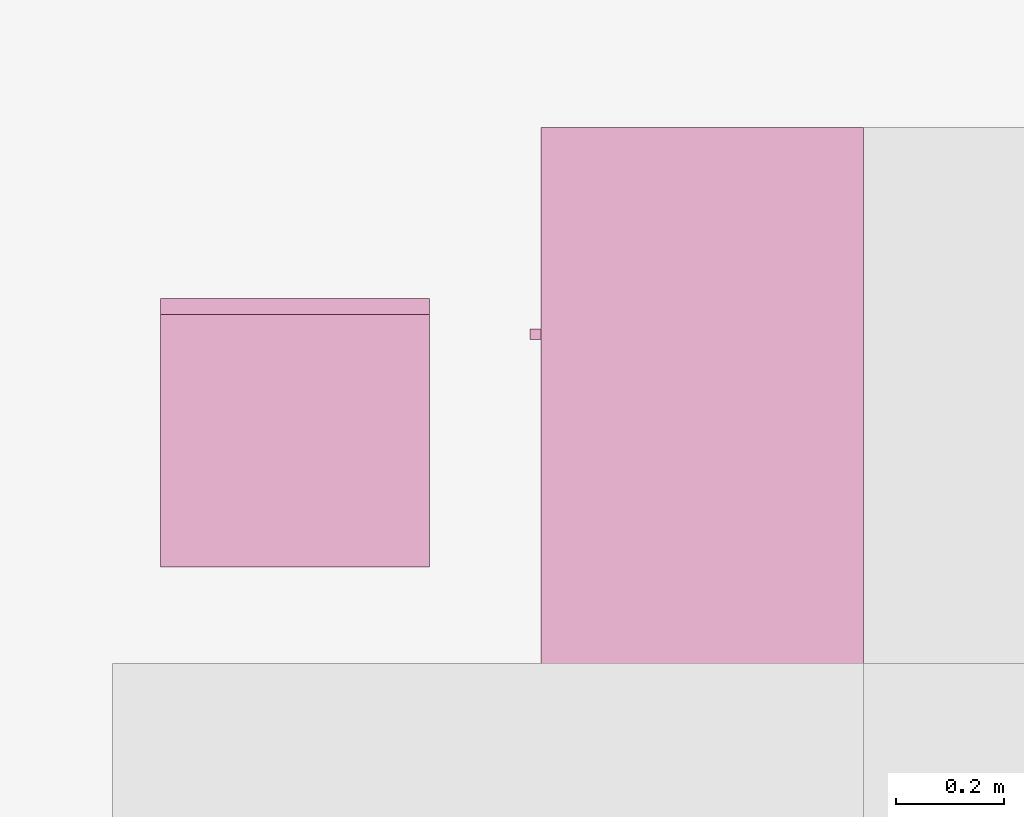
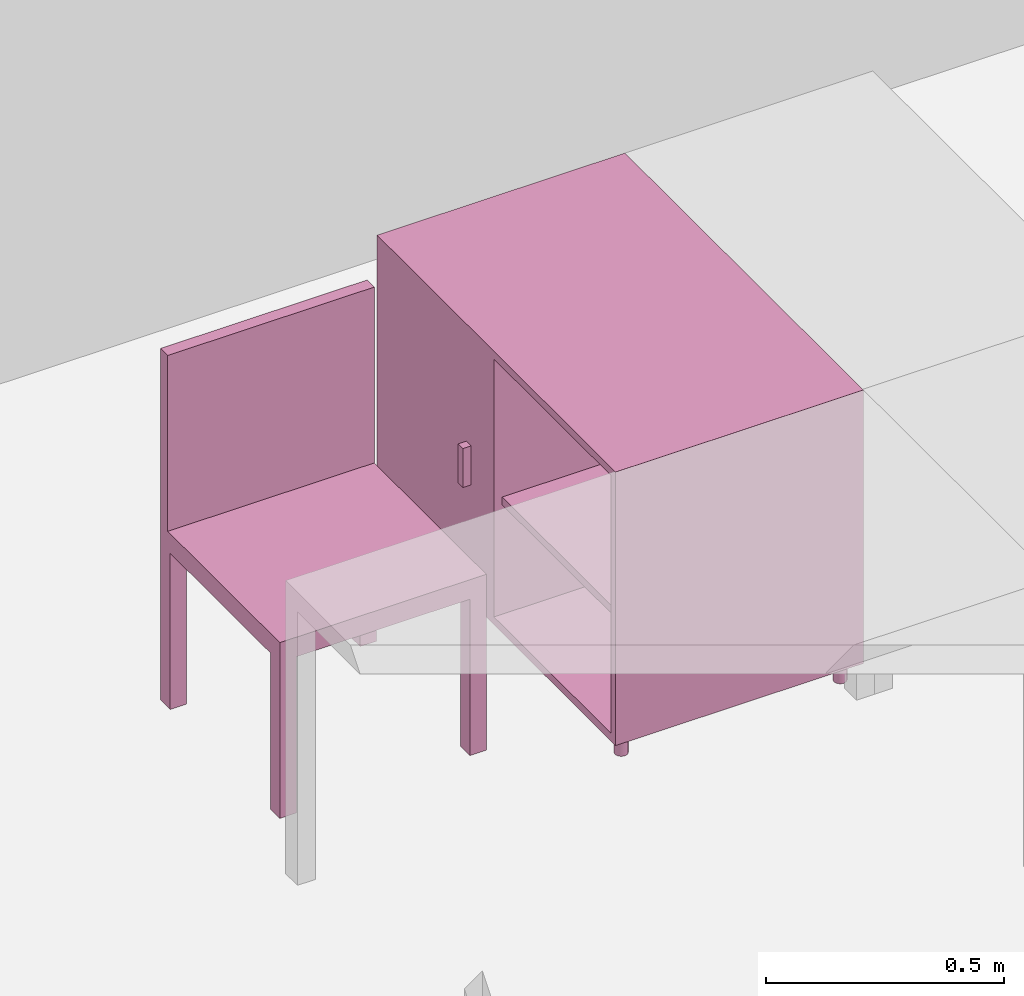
"""IFC4 building model written with IfcOpenShell, lengths in metres."""

from ifc_helpers import new_model, entity, si_unit, converted_unit, derived_unit, frame, origin, place, context, subcontext, project, spatial, faceted_brep, element, save


model = new_model("IFC4")

# Units and contexts
model_context = context("Model", 3, precision=1e-05, world=origin())
body_context = subcontext(model_context, "Body", "Model", "MODEL_VIEW")
ifc_project = project(units=[si_unit("LENGTHUNIT", "METRE"), si_unit("AREAUNIT", "SQUARE_METRE"), si_unit("VOLUMEUNIT", "CUBIC_METRE"), si_unit("MASSUNIT", "GRAM", prefix="KILO"), converted_unit("PLANEANGLEUNIT", "DEGREE", entity("IfcPlaneAngleMeasure", 0.0174532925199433), si_unit("PLANEANGLEUNIT", "RADIAN"), dimensions=[0, 0, 0, 0, 0, 0, 0]), derived_unit("THERMALTRANSMITTANCEUNIT", [(si_unit("POWERUNIT", "WATT"), 1), (si_unit("THERMODYNAMICTEMPERATUREUNIT", "KELVIN"), -1), (si_unit("LENGTHUNIT", "METRE"), -2)]), derived_unit("VOLUMETRICFLOWRATEUNIT", [(si_unit("LENGTHUNIT", "METRE"), 3), (converted_unit("TIMEUNIT", "hour", entity("IfcTimeMeasure", 3600.0), si_unit("TIMEUNIT", "SECOND"), dimensions=[0, 0, 1, 0, 0, 0, 0]), -1), (si_unit("LENGTHUNIT", "METRE"), -1)])], contexts=[model_context])

# Building, storeys
building_placement = place(None, origin())
building = spatial("IfcBuilding", under=ifc_project, at=building_placement, Name="HABITATGE PLURIFAMILIAR", CompositionType="ELEMENT")
storey_1_placement = place(building_placement, frame((0.0, 0.0, 6.25)))
storey_1 = spatial("IfcBuildingStorey", under=building, at=storey_1_placement, Name="PLANTA PRIMERA", CompositionType="ELEMENT", Elevation=6.25)
storey_2_placement = place(storey_1_placement, frame((0.0, 0.0, 3.35)))
storey_2 = spatial("IfcBuildingStorey", under=storey_1, at=storey_2_placement, Name="NOU", CompositionType="PARTIAL")

# Furniture
furniture_1_placement = place(storey_2_placement, frame((423.133213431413, 26.2261658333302, -3.35)))
element("IfcFurniture", 1, at=furniture_1_placement, inside=storey_2, Name="Taula 100X60_P1", context=body_context, shape_type="Brep", body=[
    faceted_brep([(0.620000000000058, 0.0, 0.05), (0.02, 0.0, 0.05), (0.02, 0.0, 0.07), (0.620000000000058, 0.0, 0.07), (0.02, 1.00000000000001, 0.05), (0.02, 1.00000000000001, 0.07), (0.620000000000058, 1.0, 0.05), (0.620000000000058, 1.0, 0.07)], [[[0, 1, 2, 3]], [[1, 4, 5, 2]], [[4, 6, 7, 5]], [[6, 0, 3, 7]], [[0, 6, 4, 1]], [[3, 2, 5, 7]]], orient=[[False], [False], [False], [False], [False], [False]]),
    faceted_brep([(0.04, 0.0, 0.35), (0.62, 0.0, 0.35), (0.62, 0.999999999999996, 0.35), (0.04, 1.0, 0.35), (0.62, 0.0, 0.37), (0.04, 0.0, 0.37), (0.04, 1.0, 0.37), (0.62, 0.999999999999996, 0.37)], [[[0, 1, 2, 3]], [[4, 5, 6, 7]], [[1, 0, 5, 4]], [[2, 1, 4, 7]], [[3, 2, 7, 6]], [[0, 3, 6, 5]]], orient=[[False], [False], [False], [False], [False], [False]]),
    faceted_brep([(0.04, 0.510000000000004, 0.75), (0.04, 0.510000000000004, 0.05), (0.02, 0.510000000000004, 0.05), (0.02, 0.510000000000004, 0.75), (0.04, 1.00000000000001, 0.05), (0.02, 1.00000000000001, 0.05), (0.04, 1.00000000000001, 0.75), (0.02, 1.00000000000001, 0.75)], [[[0, 1, 2, 3]], [[1, 4, 5, 2]], [[4, 6, 7, 5]], [[6, 0, 3, 7]], [[0, 6, 4, 1]], [[3, 2, 5, 7]]], orient=[[False], [False], [False], [False], [False], [False]]),
    faceted_brep([(0.62, 0.0200000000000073, 0.75), (0.620000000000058, 0.0200000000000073, 0.0499999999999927), (0.620000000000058, 0.0, 0.0499999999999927), (0.62, 0.0, 0.75), (0.02, 0.02, 0.05), (0.02, 0.0, 0.05), (0.02, 0.02, 0.75), (0.02, 0.0, 0.75)], [[[0, 1, 2, 3]], [[1, 4, 5, 2]], [[4, 6, 7, 5]], [[6, 0, 3, 7]], [[0, 6, 4, 1]], [[3, 2, 5, 7]]], orient=[[False], [False], [False], [False], [False], [False]]),
    faceted_brep([(0.62, 0.530000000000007, 0.75), (0.620000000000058, 0.530000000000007, 0.0499999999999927), (0.620000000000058, 0.510000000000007, 0.0499999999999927), (0.62, 0.510000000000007, 0.75), (0.02, 0.53, 0.05), (0.02, 0.51, 0.05), (0.02, 0.53, 0.75), (0.02, 0.51, 0.75)], [[[0, 1, 2, 3]], [[1, 4, 5, 2]], [[4, 6, 7, 5]], [[6, 0, 3, 7]], [[0, 6, 4, 1]], [[3, 2, 5, 7]]], orient=[[False], [False], [False], [False], [False], [False]]),
    faceted_brep([(0.620000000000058, 0.530000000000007, 0.75000000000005), (0.620000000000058, 0.530000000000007, 0.0499999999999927), (0.620000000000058, 0.51, 0.0499999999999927), (0.620000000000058, 0.51, 0.75000000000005), (0.0400000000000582, 0.530000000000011, 0.0499999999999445), (0.0400000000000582, 0.510000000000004, 0.0499999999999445), (0.04, 0.530000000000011, 0.750000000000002), (0.04, 0.510000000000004, 0.750000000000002)], [[[0, 1, 2, 3]], [[1, 4, 5, 2]], [[4, 6, 7, 5]], [[6, 0, 3, 7]], [[0, 6, 4, 1]], [[3, 2, 5, 7]]], orient=[[False], [False], [False], [False], [False], [False]]),
    faceted_brep([(0.62, 1.0, 0.75), (0.620000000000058, 1.0, 0.0499999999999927), (0.620000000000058, 0.980000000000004, 0.0499999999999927), (0.62, 0.980000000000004, 0.75), (0.02, 1.0, 0.05), (0.02, 0.98, 0.05), (0.02, 1.0, 0.75), (0.02, 0.98, 0.75)], [[[0, 1, 2, 3]], [[1, 4, 5, 2]], [[4, 6, 7, 5]], [[6, 0, 3, 7]], [[0, 6, 4, 1]], [[3, 2, 5, 7]]], orient=[[False], [False], [False], [False], [False], [False]]),
    faceted_brep([(0.620000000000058, 0.0, 0.73), (0.02, 0.0, 0.73), (0.02, 0.0, 0.75), (0.620000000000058, 0.0, 0.75), (0.02, 1.00000000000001, 0.73), (0.02, 1.00000000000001, 0.75), (0.620000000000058, 1.0, 0.73), (0.620000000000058, 1.0, 0.75)], [[[0, 1, 2, 3]], [[1, 4, 5, 2]], [[4, 6, 7, 5]], [[6, 0, 3, 7]], [[0, 6, 4, 1]], [[3, 2, 5, 7]]], orient=[[False], [False], [False], [False], [False], [False]]),
    faceted_brep([(0.62, 0.02, 0.75), (0.62, 0.02, 0.05), (0.6, 0.02, 0.05), (0.6, 0.02, 0.75), (0.62, 1.00000000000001, 0.05), (0.6, 1.00000000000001, 0.05), (0.62, 1.00000000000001, 0.75), (0.6, 1.00000000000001, 0.75)], [[[0, 1, 2, 3]], [[1, 4, 5, 2]], [[4, 6, 7, 5]], [[6, 0, 3, 7]], [[0, 6, 4, 1]], [[3, 2, 5, 7]]], orient=[[False], [False], [False], [False], [False], [False]]),
    faceted_brep([(0.02, 0.625579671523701, 0.35), (0.0, 0.625579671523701, 0.35), (0.0, 0.605579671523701, 0.35), (0.02, 0.605579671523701, 0.35), (0.02, 0.605579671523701, 0.45), (0.0, 0.605579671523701, 0.45), (0.0, 0.625579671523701, 0.45), (0.02, 0.625579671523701, 0.45)], [[[0, 1, 2, 3]], [[4, 5, 6, 7]], [[3, 4, 7, 0]], [[2, 5, 4, 3]], [[1, 6, 5, 2]], [[0, 7, 6, 1]]], orient=[[False], [False], [False], [False], [False], [False]]),
    faceted_brep([(0.583821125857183, 0.0499366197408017, 0.0), (0.581227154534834, 0.049709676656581, 0.0), (0.578711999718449, 0.0490357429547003, 0.0), (0.5763520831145, 0.047935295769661, 0.0), (0.574219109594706, 0.0464417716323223, 0.0), (0.57237788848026, 0.0446005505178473, 0.0), (0.570884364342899, 0.0424675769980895, 0.0), (0.569783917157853, 0.0401076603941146, 0.0), (0.569109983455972, 0.0375925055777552, 0.0), (0.568883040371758, 0.0349985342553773, 0.0), (0.569109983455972, 0.032404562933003, 0.0), (0.569783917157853, 0.0298894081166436, 0.0), (0.570884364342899, 0.0275294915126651, 0.0), (0.57237788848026, 0.025396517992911, 0.0), (0.574219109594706, 0.0235552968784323, 0.0), (0.5763520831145, 0.0220617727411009, 0.0), (0.578711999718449, 0.020961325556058, 0.0), (0.581227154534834, 0.0202873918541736, 0.0), (0.583821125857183, 0.0200604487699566, 0.0), (0.586415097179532, 0.0202873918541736, 0.0), (0.588930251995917, 0.020961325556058, 0.0), (0.591290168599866, 0.0220617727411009, 0.0), (0.59342314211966, 0.0235552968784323, 0.0), (0.595264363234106, 0.025396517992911, 0.0), (0.596757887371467, 0.0275294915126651, 0.0), (0.597858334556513, 0.0298894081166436, 0.0), (0.598532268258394, 0.032404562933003, 0.0), (0.598759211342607, 0.0349985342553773, 0.0), (0.598532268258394, 0.0375925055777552, 0.0), (0.597858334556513, 0.0401076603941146, 0.0), (0.596757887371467, 0.0424675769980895, 0.0), (0.595264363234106, 0.0446005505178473, 0.0), (0.59342314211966, 0.0464417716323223, 0.0), (0.591290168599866, 0.047935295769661, 0.0), (0.588930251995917, 0.0490357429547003, 0.0), (0.586415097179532, 0.049709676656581, 0.0), (0.583821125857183, 0.0499366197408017, 0.05), (0.586415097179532, 0.049709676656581, 0.05), (0.588930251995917, 0.0490357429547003, 0.05), (0.591290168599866, 0.047935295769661, 0.05), (0.59342314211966, 0.0464417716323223, 0.05), (0.595264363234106, 0.0446005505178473, 0.05), (0.596757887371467, 0.0424675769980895, 0.05), (0.597858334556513, 0.0401076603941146, 0.05), (0.598532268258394, 0.0375925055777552, 0.05), (0.598759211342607, 0.0349985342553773, 0.05), (0.598532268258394, 0.032404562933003, 0.05), (0.597858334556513, 0.0298894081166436, 0.05), (0.596757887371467, 0.0275294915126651, 0.05), (0.595264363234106, 0.025396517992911, 0.05), (0.59342314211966, 0.0235552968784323, 0.05), (0.591290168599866, 0.0220617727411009, 0.05), (0.588930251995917, 0.020961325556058, 0.05), (0.586415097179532, 0.0202873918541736, 0.05), (0.583821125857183, 0.0200604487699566, 0.05), (0.581227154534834, 0.0202873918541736, 0.05), (0.578711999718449, 0.020961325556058, 0.05), (0.5763520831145, 0.0220617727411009, 0.05), (0.574219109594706, 0.0235552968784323, 0.05), (0.57237788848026, 0.025396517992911, 0.05), (0.570884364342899, 0.0275294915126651, 0.05), (0.569783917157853, 0.0298894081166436, 0.05), (0.569109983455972, 0.032404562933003, 0.05), (0.568883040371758, 0.0349985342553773, 0.05), (0.569109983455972, 0.0375925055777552, 0.05), (0.569783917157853, 0.0401076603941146, 0.05), (0.570884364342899, 0.0424675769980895, 0.05), (0.57237788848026, 0.0446005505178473, 0.05), (0.574219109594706, 0.0464417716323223, 0.05), (0.5763520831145, 0.047935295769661, 0.05), (0.578711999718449, 0.0490357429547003, 0.05), (0.581227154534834, 0.049709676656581, 0.05)], [[[0, 1, 2, 3, 4, 5, 6, 7, 8, 9, 10, 11, 12, 13, 14, 15, 16, 17, 18, 19, 20, 21, 22, 23, 24, 25, 26, 27, 28, 29, 30, 31, 32, 33, 34, 35]], [[36, 37, 38, 39, 40, 41, 42, 43, 44, 45, 46, 47, 48, 49, 50, 51, 52, 53, 54, 55, 56, 57, 58, 59, 60, 61, 62, 63, 64, 65, 66, 67, 68, 69, 70, 71]], [[1, 0, 36, 71]], [[2, 1, 71, 70]], [[3, 2, 70, 69]], [[4, 3, 69, 68]], [[5, 4, 68, 67]], [[6, 5, 67, 66]], [[7, 6, 66, 65]], [[8, 7, 65, 64]], [[9, 8, 64, 63]], [[10, 9, 63, 62]], [[11, 10, 62, 61]], [[12, 11, 61, 60]], [[13, 12, 60, 59]], [[14, 13, 59, 58]], [[15, 14, 58, 57]], [[16, 15, 57, 56]], [[17, 16, 56, 55]], [[18, 17, 55, 54]], [[19, 18, 54, 53]], [[20, 19, 53, 52]], [[21, 20, 52, 51]], [[22, 21, 51, 50]], [[23, 22, 50, 49]], [[24, 23, 49, 48]], [[25, 24, 48, 47]], [[26, 25, 47, 46]], [[27, 26, 46, 45]], [[28, 27, 45, 44]], [[29, 28, 44, 43]], [[30, 29, 43, 42]], [[31, 30, 42, 41]], [[32, 31, 41, 40]], [[33, 32, 40, 39]], [[34, 33, 39, 38]], [[35, 34, 38, 37]], [[0, 35, 37, 36]]], orient=[[False], [False], [False], [False], [False], [False], [False], [False], [False], [False], [False], [False], [False], [False], [False], [False], [False], [False], [False], [False], [False], [False], [False], [False], [False], [False], [False], [False], [False], [False], [False], [False], [False], [False], [False], [False], [False], [False]]),
    faceted_brep([(0.0538211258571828, 0.0499366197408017, 0.0), (0.051227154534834, 0.049709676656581, 0.0), (0.0487119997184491, 0.0490357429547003, 0.0), (0.0463520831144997, 0.0479352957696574, 0.0), (0.0442191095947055, 0.0464417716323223, 0.0), (0.0423778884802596, 0.0446005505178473, 0.0), (0.0408843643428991, 0.0424675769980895, 0.0), (0.0397839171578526, 0.040107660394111, 0.0), (0.0391099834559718, 0.0375925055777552, 0.0), (0.0388830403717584, 0.0349985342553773, 0.0), (0.0391099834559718, 0.0324045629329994, 0.0), (0.0397839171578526, 0.0298894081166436, 0.0), (0.0408843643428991, 0.0275294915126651, 0.0), (0.0423778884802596, 0.0253965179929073, 0.0), (0.0442191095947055, 0.0235552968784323, 0.0), (0.0463520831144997, 0.0220617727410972, 0.0), (0.0487119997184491, 0.0209613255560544, 0.0), (0.051227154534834, 0.0202873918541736, 0.0), (0.0538211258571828, 0.0200604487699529, 0.0), (0.0564150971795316, 0.0202873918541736, 0.0), (0.0589302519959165, 0.0209613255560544, 0.0), (0.0612901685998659, 0.0220617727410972, 0.0), (0.06342314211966, 0.0235552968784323, 0.0), (0.065264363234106, 0.0253965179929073, 0.0), (0.0667578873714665, 0.0275294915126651, 0.0), (0.067858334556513, 0.0298894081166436, 0.0), (0.0685322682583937, 0.0324045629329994, 0.0), (0.0687592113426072, 0.0349985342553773, 0.0), (0.0685322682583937, 0.0375925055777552, 0.0), (0.067858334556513, 0.040107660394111, 0.0), (0.0667578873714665, 0.0424675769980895, 0.0), (0.065264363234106, 0.0446005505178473, 0.0), (0.06342314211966, 0.0464417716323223, 0.0), (0.0612901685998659, 0.0479352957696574, 0.0), (0.0589302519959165, 0.0490357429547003, 0.0), (0.0564150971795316, 0.049709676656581, 0.0), (0.0538211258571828, 0.0499366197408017, 0.05), (0.0564150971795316, 0.049709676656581, 0.05), (0.0589302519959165, 0.0490357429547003, 0.05), (0.0612901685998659, 0.0479352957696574, 0.05), (0.06342314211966, 0.0464417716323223, 0.05), (0.065264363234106, 0.0446005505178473, 0.05), (0.0667578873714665, 0.0424675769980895, 0.05), (0.067858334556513, 0.040107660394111, 0.05), (0.0685322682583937, 0.0375925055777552, 0.05), (0.0687592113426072, 0.0349985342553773, 0.05), (0.0685322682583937, 0.0324045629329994, 0.05), (0.067858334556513, 0.0298894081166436, 0.05), (0.0667578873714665, 0.0275294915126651, 0.05), (0.065264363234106, 0.0253965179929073, 0.05), (0.06342314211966, 0.0235552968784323, 0.05), (0.0612901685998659, 0.0220617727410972, 0.05), (0.0589302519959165, 0.0209613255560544, 0.05), (0.0564150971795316, 0.0202873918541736, 0.05), (0.0538211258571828, 0.0200604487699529, 0.05), (0.051227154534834, 0.0202873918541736, 0.05), (0.0487119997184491, 0.0209613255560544, 0.05), (0.0463520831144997, 0.0220617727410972, 0.05), (0.0442191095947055, 0.0235552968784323, 0.05), (0.0423778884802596, 0.0253965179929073, 0.05), (0.0408843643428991, 0.0275294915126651, 0.05), (0.0397839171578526, 0.0298894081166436, 0.05), (0.0391099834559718, 0.0324045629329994, 0.05), (0.0388830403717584, 0.0349985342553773, 0.05), (0.0391099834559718, 0.0375925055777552, 0.05), (0.0397839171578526, 0.040107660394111, 0.05), (0.0408843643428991, 0.0424675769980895, 0.05), (0.0423778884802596, 0.0446005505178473, 0.05), (0.0442191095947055, 0.0464417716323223, 0.05), (0.0463520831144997, 0.0479352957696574, 0.05), (0.0487119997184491, 0.0490357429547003, 0.05), (0.051227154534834, 0.049709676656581, 0.05)], [[[0, 1, 2, 3, 4, 5, 6, 7, 8, 9, 10, 11, 12, 13, 14, 15, 16, 17, 18, 19, 20, 21, 22, 23, 24, 25, 26, 27, 28, 29, 30, 31, 32, 33, 34, 35]], [[36, 37, 38, 39, 40, 41, 42, 43, 44, 45, 46, 47, 48, 49, 50, 51, 52, 53, 54, 55, 56, 57, 58, 59, 60, 61, 62, 63, 64, 65, 66, 67, 68, 69, 70, 71]], [[1, 0, 36, 71]], [[2, 1, 71, 70]], [[3, 2, 70, 69]], [[4, 3, 69, 68]], [[5, 4, 68, 67]], [[6, 5, 67, 66]], [[7, 6, 66, 65]], [[8, 7, 65, 64]], [[9, 8, 64, 63]], [[10, 9, 63, 62]], [[11, 10, 62, 61]], [[12, 11, 61, 60]], [[13, 12, 60, 59]], [[14, 13, 59, 58]], [[15, 14, 58, 57]], [[16, 15, 57, 56]], [[17, 16, 56, 55]], [[18, 17, 55, 54]], [[19, 18, 54, 53]], [[20, 19, 53, 52]], [[21, 20, 52, 51]], [[22, 21, 51, 50]], [[23, 22, 50, 49]], [[24, 23, 49, 48]], [[25, 24, 48, 47]], [[26, 25, 47, 46]], [[27, 26, 46, 45]], [[28, 27, 45, 44]], [[29, 28, 44, 43]], [[30, 29, 43, 42]], [[31, 30, 42, 41]], [[32, 31, 41, 40]], [[33, 32, 40, 39]], [[34, 33, 39, 38]], [[35, 34, 38, 37]], [[0, 35, 37, 36]]], orient=[[False], [False], [False], [False], [False], [False], [False], [False], [False], [False], [False], [False], [False], [False], [False], [False], [False], [False], [False], [False], [False], [False], [False], [False], [False], [False], [False], [False], [False], [False], [False], [False], [False], [False], [False], [False], [False], [False]]),
    faceted_brep([(0.0550000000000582, 0.979982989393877, 0.0), (0.0524060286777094, 0.97975604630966, 0.0), (0.0498908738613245, 0.979082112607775, 0.0), (0.0475309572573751, 0.977981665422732, 0.0), (0.0453979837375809, 0.976488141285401, 0.0), (0.043556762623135, 0.974646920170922, 0.0), (0.0420632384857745, 0.972513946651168, 0.0), (0.040962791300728, 0.97015403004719, 0.0), (0.0402888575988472, 0.96763887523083, 0.0), (0.0400619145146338, 0.965044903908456, 0.0), (0.0402888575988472, 0.962450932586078, 0.0), (0.040962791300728, 0.959935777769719, 0.0), (0.0420632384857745, 0.957575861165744, 0.0), (0.043556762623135, 0.955442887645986, 0.0), (0.0453979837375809, 0.953601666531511, 0.0), (0.0475309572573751, 0.952108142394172, 0.0), (0.0498908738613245, 0.951007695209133, 0.0), (0.0524060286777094, 0.950333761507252, 0.0), (0.0550000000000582, 0.950106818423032, 0.0), (0.057593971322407, 0.950333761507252, 0.0), (0.0601091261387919, 0.951007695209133, 0.0), (0.0624690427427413, 0.952108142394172, 0.0), (0.0646020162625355, 0.953601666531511, 0.0), (0.0664432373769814, 0.955442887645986, 0.0), (0.0679367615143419, 0.957575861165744, 0.0), (0.0690372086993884, 0.959935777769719, 0.0), (0.0697111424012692, 0.962450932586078, 0.0), (0.0699380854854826, 0.965044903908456, 0.0), (0.0697111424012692, 0.96763887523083, 0.0), (0.0690372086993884, 0.97015403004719, 0.0), (0.0679367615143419, 0.972513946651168, 0.0), (0.0664432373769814, 0.974646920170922, 0.0), (0.0646020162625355, 0.976488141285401, 0.0), (0.0624690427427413, 0.977981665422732, 0.0), (0.0601091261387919, 0.979082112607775, 0.0), (0.057593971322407, 0.97975604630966, 0.0), (0.0550000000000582, 0.979982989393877, 0.05), (0.057593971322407, 0.97975604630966, 0.05), (0.0601091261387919, 0.979082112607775, 0.05), (0.0624690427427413, 0.977981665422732, 0.05), (0.0646020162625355, 0.976488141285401, 0.05), (0.0664432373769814, 0.974646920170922, 0.05), (0.0679367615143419, 0.972513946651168, 0.05), (0.0690372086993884, 0.97015403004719, 0.05), (0.0697111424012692, 0.96763887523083, 0.05), (0.0699380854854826, 0.965044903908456, 0.05), (0.0697111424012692, 0.962450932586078, 0.05), (0.0690372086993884, 0.959935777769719, 0.05), (0.0679367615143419, 0.957575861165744, 0.05), (0.0664432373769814, 0.955442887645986, 0.05), (0.0646020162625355, 0.953601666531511, 0.05), (0.0624690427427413, 0.952108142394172, 0.05), (0.0601091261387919, 0.951007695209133, 0.05), (0.057593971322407, 0.950333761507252, 0.05), (0.0550000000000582, 0.950106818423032, 0.05), (0.0524060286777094, 0.950333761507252, 0.05), (0.0498908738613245, 0.951007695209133, 0.05), (0.0475309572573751, 0.952108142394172, 0.05), (0.0453979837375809, 0.953601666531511, 0.05), (0.043556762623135, 0.955442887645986, 0.05), (0.0420632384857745, 0.957575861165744, 0.05), (0.040962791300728, 0.959935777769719, 0.05), (0.0402888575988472, 0.962450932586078, 0.05), (0.0400619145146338, 0.965044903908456, 0.05), (0.0402888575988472, 0.96763887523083, 0.05), (0.040962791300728, 0.97015403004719, 0.05), (0.0420632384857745, 0.972513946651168, 0.05), (0.043556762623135, 0.974646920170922, 0.05), (0.0453979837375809, 0.976488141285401, 0.05), (0.0475309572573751, 0.977981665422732, 0.05), (0.0498908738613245, 0.979082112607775, 0.05), (0.0524060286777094, 0.97975604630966, 0.05)], [[[0, 1, 2, 3, 4, 5, 6, 7, 8, 9, 10, 11, 12, 13, 14, 15, 16, 17, 18, 19, 20, 21, 22, 23, 24, 25, 26, 27, 28, 29, 30, 31, 32, 33, 34, 35]], [[36, 37, 38, 39, 40, 41, 42, 43, 44, 45, 46, 47, 48, 49, 50, 51, 52, 53, 54, 55, 56, 57, 58, 59, 60, 61, 62, 63, 64, 65, 66, 67, 68, 69, 70, 71]], [[1, 0, 36, 71]], [[2, 1, 71, 70]], [[3, 2, 70, 69]], [[4, 3, 69, 68]], [[5, 4, 68, 67]], [[6, 5, 67, 66]], [[7, 6, 66, 65]], [[8, 7, 65, 64]], [[9, 8, 64, 63]], [[10, 9, 63, 62]], [[11, 10, 62, 61]], [[12, 11, 61, 60]], [[13, 12, 60, 59]], [[14, 13, 59, 58]], [[15, 14, 58, 57]], [[16, 15, 57, 56]], [[17, 16, 56, 55]], [[18, 17, 55, 54]], [[19, 18, 54, 53]], [[20, 19, 53, 52]], [[21, 20, 52, 51]], [[22, 21, 51, 50]], [[23, 22, 50, 49]], [[24, 23, 49, 48]], [[25, 24, 48, 47]], [[26, 25, 47, 46]], [[27, 26, 46, 45]], [[28, 27, 45, 44]], [[29, 28, 44, 43]], [[30, 29, 43, 42]], [[31, 30, 42, 41]], [[32, 31, 41, 40]], [[33, 32, 40, 39]], [[34, 33, 39, 38]], [[35, 34, 38, 37]], [[0, 35, 37, 36]]], orient=[[False], [False], [False], [False], [False], [False], [False], [False], [False], [False], [False], [False], [False], [False], [False], [False], [False], [False], [False], [False], [False], [False], [False], [False], [False], [False], [False], [False], [False], [False], [False], [False], [False], [False], [False], [False], [False], [False]]),
    faceted_brep([(0.585033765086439, 0.979647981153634, 0.0), (0.58243979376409, 0.979421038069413, 0.0), (0.579924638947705, 0.978747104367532, 0.0), (0.577564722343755, 0.977646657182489, 0.0), (0.575431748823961, 0.976153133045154, 0.0), (0.573590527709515, 0.974311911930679, 0.0), (0.572097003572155, 0.972178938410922, 0.0), (0.570996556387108, 0.969819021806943, 0.0), (0.570322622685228, 0.967303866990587, 0.0), (0.570095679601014, 0.964709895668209, 0.0), (0.570322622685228, 0.962115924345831, 0.0), (0.570996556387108, 0.959600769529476, 0.0), (0.572097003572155, 0.957240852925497, 0.0), (0.573590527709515, 0.955107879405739, 0.0), (0.575431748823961, 0.953266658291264, 0.0), (0.577564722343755, 0.951773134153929, 0.0), (0.579924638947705, 0.950672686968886, 0.0), (0.58243979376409, 0.949998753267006, 0.0), (0.585033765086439, 0.949771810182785, 0.0), (0.587627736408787, 0.949998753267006, 0.0), (0.590142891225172, 0.950672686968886, 0.0), (0.592502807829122, 0.951773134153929, 0.0), (0.594635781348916, 0.953266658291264, 0.0), (0.596477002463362, 0.955107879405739, 0.0), (0.597970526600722, 0.957240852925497, 0.0), (0.599070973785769, 0.959600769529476, 0.0), (0.59974490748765, 0.962115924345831, 0.0), (0.599971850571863, 0.964709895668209, 0.0), (0.59974490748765, 0.967303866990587, 0.0), (0.599070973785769, 0.969819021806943, 0.0), (0.597970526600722, 0.972178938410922, 0.0), (0.596477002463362, 0.974311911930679, 0.0), (0.594635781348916, 0.976153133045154, 0.0), (0.592502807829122, 0.977646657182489, 0.0), (0.590142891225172, 0.978747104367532, 0.0), (0.587627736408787, 0.979421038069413, 0.0), (0.585033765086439, 0.979647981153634, 0.05), (0.587627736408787, 0.979421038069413, 0.05), (0.590142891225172, 0.978747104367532, 0.05), (0.592502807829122, 0.977646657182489, 0.05), (0.594635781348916, 0.976153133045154, 0.05), (0.596477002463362, 0.974311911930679, 0.05), (0.597970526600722, 0.972178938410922, 0.05), (0.599070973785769, 0.969819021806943, 0.05), (0.59974490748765, 0.967303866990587, 0.05), (0.599971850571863, 0.964709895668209, 0.05), (0.59974490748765, 0.962115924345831, 0.05), (0.599070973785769, 0.959600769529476, 0.05), (0.597970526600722, 0.957240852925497, 0.05), (0.596477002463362, 0.955107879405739, 0.05), (0.594635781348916, 0.953266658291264, 0.05), (0.592502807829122, 0.951773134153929, 0.05), (0.590142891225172, 0.950672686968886, 0.05), (0.587627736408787, 0.949998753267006, 0.05), (0.585033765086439, 0.949771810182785, 0.05), (0.58243979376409, 0.949998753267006, 0.05), (0.579924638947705, 0.950672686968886, 0.05), (0.577564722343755, 0.951773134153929, 0.05), (0.575431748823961, 0.953266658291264, 0.05), (0.573590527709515, 0.955107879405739, 0.05), (0.572097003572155, 0.957240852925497, 0.05), (0.570996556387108, 0.959600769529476, 0.05), (0.570322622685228, 0.962115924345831, 0.05), (0.570095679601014, 0.964709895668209, 0.05), (0.570322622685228, 0.967303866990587, 0.05), (0.570996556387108, 0.969819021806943, 0.05), (0.572097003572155, 0.972178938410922, 0.05), (0.573590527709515, 0.974311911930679, 0.05), (0.575431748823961, 0.976153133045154, 0.05), (0.577564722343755, 0.977646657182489, 0.05), (0.579924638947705, 0.978747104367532, 0.05), (0.58243979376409, 0.979421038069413, 0.05)], [[[0, 1, 2, 3, 4, 5, 6, 7, 8, 9, 10, 11, 12, 13, 14, 15, 16, 17, 18, 19, 20, 21, 22, 23, 24, 25, 26, 27, 28, 29, 30, 31, 32, 33, 34, 35]], [[36, 37, 38, 39, 40, 41, 42, 43, 44, 45, 46, 47, 48, 49, 50, 51, 52, 53, 54, 55, 56, 57, 58, 59, 60, 61, 62, 63, 64, 65, 66, 67, 68, 69, 70, 71]], [[1, 0, 36, 71]], [[2, 1, 71, 70]], [[3, 2, 70, 69]], [[4, 3, 69, 68]], [[5, 4, 68, 67]], [[6, 5, 67, 66]], [[7, 6, 66, 65]], [[8, 7, 65, 64]], [[9, 8, 64, 63]], [[10, 9, 63, 62]], [[11, 10, 62, 61]], [[12, 11, 61, 60]], [[13, 12, 60, 59]], [[14, 13, 59, 58]], [[15, 14, 58, 57]], [[16, 15, 57, 56]], [[17, 16, 56, 55]], [[18, 17, 55, 54]], [[19, 18, 54, 53]], [[20, 19, 53, 52]], [[21, 20, 52, 51]], [[22, 21, 51, 50]], [[23, 22, 50, 49]], [[24, 23, 49, 48]], [[25, 24, 48, 47]], [[26, 25, 47, 46]], [[27, 26, 46, 45]], [[28, 27, 45, 44]], [[29, 28, 44, 43]], [[30, 29, 43, 42]], [[31, 30, 42, 41]], [[32, 31, 41, 40]], [[33, 32, 40, 39]], [[34, 33, 39, 38]], [[35, 34, 38, 37]], [[0, 35, 37, 36]]], orient=[[False], [False], [False], [False], [False], [False], [False], [False], [False], [False], [False], [False], [False], [False], [False], [False], [False], [False], [False], [False], [False], [False], [False], [False], [False], [False], [False], [False], [False], [False], [False], [False], [False], [False], [False], [False], [False], [False]]),
])
furniture_2_placement = place(storey_2_placement, frame((422.445691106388, 26.40847499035, -3.34942958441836)))
element("IfcFurniture", 2, at=furniture_2_placement, inside=storey_2, Name="Cadira d'Oficina_P1", context=body_context, shape_type="Brep", body=[
    faceted_brep([(0.5, 0.0, 0.4), (0.5, 0.5, 0.4), (0.0, 0.5, 0.4), (0.0, 0.0, 0.4), (0.5, 0.5, 0.45), (0.5, 0.0, 0.45), (0.0, 0.0, 0.45), (0.0, 0.5, 0.45)], [[[0, 1, 2, 3]], [[4, 5, 6, 7]], [[1, 0, 5, 4]], [[2, 1, 4, 7]], [[3, 2, 7, 6]], [[0, 3, 6, 5]]], orient=[[False], [False], [False], [False], [False], [False]]),
    faceted_brep([(0.0, 0.46, 0.0), (0.04, 0.46, 0.0), (0.04, 0.5, 0.0), (0.0, 0.5, 0.0), (0.04, 0.46, 0.4), (0.0, 0.46, 0.4), (0.0, 0.5, 0.4), (0.04, 0.5, 0.4)], [[[0, 1, 2, 3]], [[4, 5, 6, 7]], [[1, 0, 5, 4]], [[2, 1, 4, 7]], [[3, 2, 7, 6]], [[0, 3, 6, 5]]], orient=[[False], [False], [False], [False], [False], [False]]),
    faceted_brep([(0.0, 0.0, 0.0), (0.04, 0.0, 0.0), (0.04, 0.04, 0.0), (0.0, 0.04, 0.0), (0.04, 0.0, 0.4), (0.0, 0.0, 0.4), (0.0, 0.04, 0.4), (0.04, 0.04, 0.4)], [[[0, 1, 2, 3]], [[4, 5, 6, 7]], [[1, 0, 5, 4]], [[2, 1, 4, 7]], [[3, 2, 7, 6]], [[0, 3, 6, 5]]], orient=[[False], [False], [False], [False], [False], [False]]),
    faceted_brep([(0.46, 0.46, 0.0), (0.5, 0.46, 0.0), (0.5, 0.5, 0.0), (0.46, 0.5, 0.0), (0.5, 0.46, 0.4), (0.46, 0.46, 0.4), (0.46, 0.5, 0.4), (0.5, 0.5, 0.4)], [[[0, 1, 2, 3]], [[4, 5, 6, 7]], [[1, 0, 5, 4]], [[2, 1, 4, 7]], [[3, 2, 7, 6]], [[0, 3, 6, 5]]], orient=[[False], [False], [False], [False], [False], [False]]),
    faceted_brep([(0.46, 0.0, 0.0), (0.5, 0.0, 0.0), (0.5, 0.04, 0.0), (0.46, 0.04, 0.0), (0.5, 0.0, 0.4), (0.46, 0.0, 0.4), (0.46, 0.04, 0.4), (0.5, 0.04, 0.4)], [[[0, 1, 2, 3]], [[4, 5, 6, 7]], [[1, 0, 5, 4]], [[2, 1, 4, 7]], [[3, 2, 7, 6]], [[0, 3, 6, 5]]], orient=[[False], [False], [False], [False], [False], [False]]),
    faceted_brep([(0.0, 0.47, 0.45), (0.5, 0.47, 0.45), (0.5, 0.5, 0.45), (0.0, 0.5, 0.45), (0.5, 0.47, 0.9), (0.0, 0.47, 0.9), (0.0, 0.5, 0.9), (0.5, 0.5, 0.9)], [[[0, 1, 2, 3]], [[4, 5, 6, 7]], [[1, 0, 5, 4]], [[2, 1, 4, 7]], [[3, 2, 7, 6]], [[0, 3, 6, 5]]], orient=[[False], [False], [False], [False], [False], [False]]),
])

save(model, "model.ifc")
